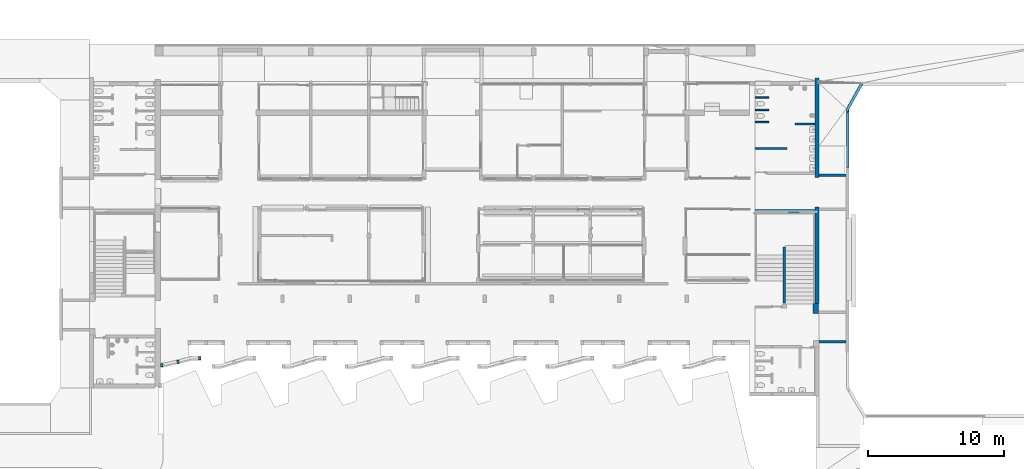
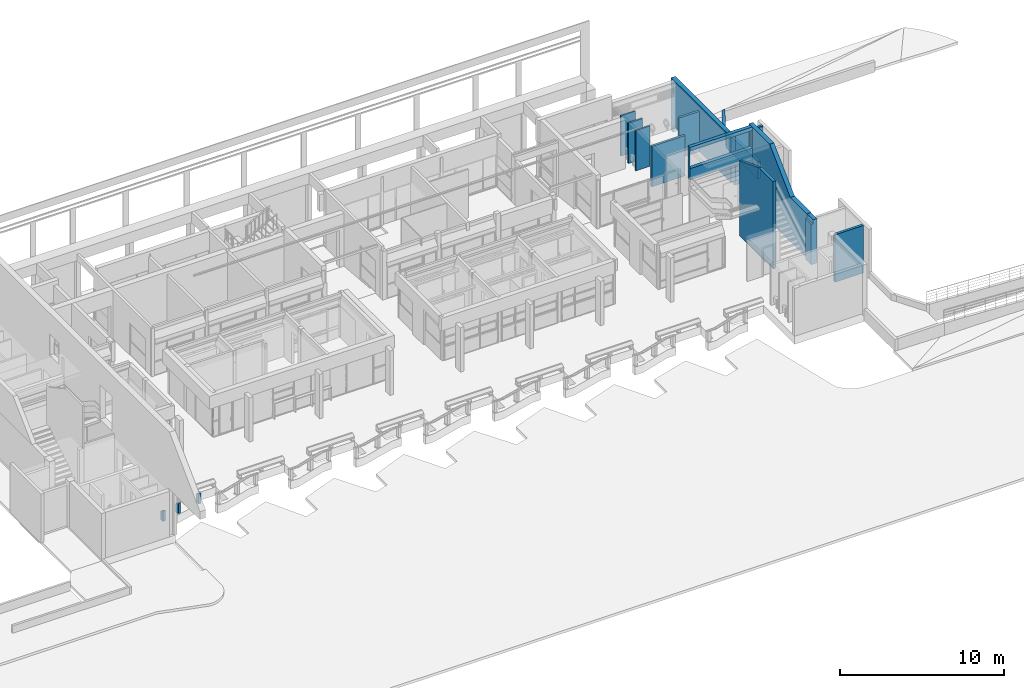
# One storey, part 92 of 117: 17 walls, 6 openings.
"""IFC4 building model written with IfcOpenShell, lengths in metres."""

from ifc_helpers import new_model, entity, si_unit, converted_unit, derived_unit, direction, frame, origin, place, context, subcontext, project, spatial, indexed_curve, outline, extrude, polygons, material, type_object, element, save


model = new_model("IFC4")

# Units and contexts
model_context = context("Model", 3, precision=1e-05, world=origin(), true_north=direction((6.123031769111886e-17, 1.0)))
body_context = subcontext(model_context, "Body", "Model", "MODEL_VIEW")
ifc_project = project(units=[si_unit("LENGTHUNIT", "METRE"), si_unit("AREAUNIT", "SQUARE_METRE"), si_unit("VOLUMEUNIT", "CUBIC_METRE"), converted_unit("PLANEANGLEUNIT", "DEGREE", entity("IfcRatioMeasure", 0.017453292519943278), si_unit("PLANEANGLEUNIT", "RADIAN"), dimensions=[0, 0, 0, 0, 0, 0, 0]), si_unit("MASSUNIT", "GRAM", prefix="KILO"), derived_unit("MASSDENSITYUNIT", [(si_unit("MASSUNIT", "GRAM", prefix="KILO"), 1), (si_unit("LENGTHUNIT", "METRE"), -3)]), derived_unit("MOMENTOFINERTIAUNIT", [(si_unit("LENGTHUNIT", "METRE"), 4)]), si_unit("TIMEUNIT", "SECOND"), si_unit("FREQUENCYUNIT", "HERTZ"), si_unit("THERMODYNAMICTEMPERATUREUNIT", "DEGREE_CELSIUS"), derived_unit("THERMALTRANSMITTANCEUNIT", [(si_unit("MASSUNIT", "GRAM", prefix="KILO"), 1), (si_unit("THERMODYNAMICTEMPERATUREUNIT", "KELVIN"), -1), (si_unit("TIMEUNIT", "SECOND"), -3)]), derived_unit("VOLUMETRICFLOWRATEUNIT", [(si_unit("LENGTHUNIT", "METRE"), 3), (si_unit("TIMEUNIT", "SECOND"), -1)]), derived_unit("MASSFLOWRATEUNIT", [(si_unit("MASSUNIT", "GRAM", prefix="KILO"), 1), (si_unit("TIMEUNIT", "SECOND"), -1)]), derived_unit("ROTATIONALFREQUENCYUNIT", [(si_unit("TIMEUNIT", "SECOND"), -1)]), si_unit("ELECTRICCURRENTUNIT", "AMPERE"), si_unit("ELECTRICVOLTAGEUNIT", "VOLT"), si_unit("POWERUNIT", "WATT"), si_unit("FORCEUNIT", "NEWTON", prefix="KILO"), si_unit("ILLUMINANCEUNIT", "LUX"), si_unit("LUMINOUSFLUXUNIT", "LUMEN"), si_unit("LUMINOUSINTENSITYUNIT", "CANDELA"), derived_unit("USERDEFINED", [(si_unit("MASSUNIT", "GRAM", prefix="KILO"), -1), (si_unit("LENGTHUNIT", "METRE"), -2), (si_unit("TIMEUNIT", "SECOND"), 3), (si_unit("LUMINOUSFLUXUNIT", "LUMEN"), 1)]), derived_unit("SOUNDPOWERUNIT", [(si_unit("MASSUNIT", "GRAM", prefix="KILO"), 1), (si_unit("LENGTHUNIT", "METRE"), 2), (si_unit("TIMEUNIT", "SECOND"), -3)]), derived_unit("SOUNDPRESSUREUNIT", [(si_unit("MASSUNIT", "GRAM", prefix="KILO"), 1), (si_unit("LENGTHUNIT", "METRE"), -1), (si_unit("TIMEUNIT", "SECOND"), -2)]), derived_unit("LINEARVELOCITYUNIT", [(si_unit("LENGTHUNIT", "METRE"), 1), (si_unit("TIMEUNIT", "SECOND"), -1)]), si_unit("PRESSUREUNIT", "PASCAL"), derived_unit("USERDEFINED", [(si_unit("LENGTHUNIT", "METRE"), -2), (si_unit("MASSUNIT", "GRAM", prefix="KILO"), 1), (si_unit("TIMEUNIT", "SECOND"), -2)]), derived_unit("LINEARFORCEUNIT", [(si_unit("MASSUNIT", "GRAM", prefix="KILO"), 1), (si_unit("LENGTHUNIT", "METRE"), 1), (si_unit("TIMEUNIT", "SECOND"), -2), (si_unit("LENGTHUNIT", "METRE"), -1)]), derived_unit("PLANARFORCEUNIT", [(si_unit("MASSUNIT", "GRAM", prefix="KILO"), 1), (si_unit("LENGTHUNIT", "METRE"), 1), (si_unit("TIMEUNIT", "SECOND"), -2), (si_unit("LENGTHUNIT", "METRE"), -2)])], contexts=[model_context])

# Site, building, storey
site_placement = place(None, origin())
site = spatial("IfcSite", under=ifc_project, at=site_placement, Name="Superficie", CompositionType="ELEMENT")
building_placement = place(site_placement, origin())
building = spatial("IfcBuilding", under=site, at=building_placement, CompositionType="ELEMENT")
storey_placement = place(building_placement, origin())
storey = spatial("IfcBuildingStorey", under=building, at=storey_placement, Name="Nivel 0", CompositionType="ELEMENT", Elevation=0.0)

# Walls
ifc_material = material(Name="Muro por defecto", Category="Varios")
wall_type_1 = type_object("IfcWallType", Name="Muro básico:Por defecto - 20 cm", PredefinedType="STANDARD")
wall_1_placement = place(storey_placement, frame((23.121799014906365, -3.3641708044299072, 0.0), z_axis=(0.0, 0.0, 1.0), x_axis=(0.0, 1.0, 0.0)))
element("IfcWall", 1, at=wall_1_placement, inside=storey, type_object=wall_type_1, material=ifc_material, Name="Muro básico:Por defecto - 20 cm", ObjectType="Muro básico:Por defecto - 20 cm", PredefinedType="NOTDEFINED", context=body_context, shape_type="Tessellation", body=[
    polygons([(5.414335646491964e-16, -0.10000000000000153, 0.0), (4.100000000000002, -0.10000000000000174, 0.0), (4.100000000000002, -0.0999999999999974, 5.558264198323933), (1.699999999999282, -0.10000000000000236, 6.478694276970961), (1.699999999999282, -0.10000000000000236, 6.499999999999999), (5.414335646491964e-16, -0.10000000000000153, 6.499999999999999), (0.0, -0.10000000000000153, 3.3), (5.414335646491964e-16, 0.10000000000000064, 0.0), (5.414335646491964e-16, 0.10000000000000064, 6.499999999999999), (1.6999999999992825, 0.09999999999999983, 6.499999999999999), (1.699999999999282, 0.09999999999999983, 6.478694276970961), (4.100000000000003, 0.10000000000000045, 5.558264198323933), (4.100000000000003, 0.10000000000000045, 0.0)], [[[1, 2, 3, 4, 5, 6, 7]], [[8, 9, 10, 11, 12, 13]], [[2, 1, 8, 13]], [[3, 2, 13, 12]], [[10, 5, 4, 11]], [[4, 3, 12, 11]], [[6, 5, 10, 9]], [[1, 7, 6, 9, 8]]], closed=True),
])
wall_2_placement = place(storey_placement, frame((28.852989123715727, 12.78514521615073, -0.9889122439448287), z_axis=(0.0, 0.0, 1.0), x_axis=(-0.48480962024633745, -0.8746197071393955, 0.0)))
element("IfcWall", 2, at=wall_2_placement, inside=storey, type_object=wall_type_1, material=ifc_material, Name="Muro básico:Por defecto - 20 cm", ObjectType="Muro básico:Por defecto - 20 cm", PredefinedType="NOTDEFINED", context=body_context, shape_type="Tessellation", body=[
    polygons([(0.11086181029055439, -0.1, 0.0), (2.225055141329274, -0.10000000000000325, 0.0), (2.225055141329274, -0.10000000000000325, 1.120903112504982), (0.11086181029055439, -0.1, 1.0470738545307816), (2.1657342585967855e-15, 0.09999999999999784, 0.0), (2.1657342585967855e-15, 0.09999999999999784, 0.2683875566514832), (2.1657342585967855e-15, 0.09999999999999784, 1.043202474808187), (2.5858646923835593, 0.09999999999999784, 1.133502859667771), (2.5858646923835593, 0.09999999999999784, 0.0)], [[[1, 2, 3, 4]], [[5, 6, 7, 8, 9]], [[3, 2, 9, 8]], [[1, 4, 7, 6, 5]], [[2, 1, 5, 9]], [[4, 3, 8, 7]]], closed=True),
])
wall_3_placement = place(storey_placement, frame((27.78679901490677, 6.580829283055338, -0.9978519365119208), z_axis=(0.0, 0.0, 1.0), x_axis=(0.0, 1.0, 0.0)))
element("IfcWall", 3, at=wall_3_placement, inside=storey, type_object=wall_type_1, material=ifc_material, Name="Muro básico:Por defecto - 20 cm", ObjectType="Muro básico:Por defecto - 20 cm", PredefinedType="NOTDEFINED", context=body_context, shape_type="Tessellation", body=[
    polygons([(0.0, -0.10000000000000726, 0.0), (4.2549963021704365, -0.10000000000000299, 0.0), (4.2549963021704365, -0.10000000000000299, 1.1347539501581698), (1.6, -0.10000000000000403, 1.3204093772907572), (0.0, -0.10000000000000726, 1.3204093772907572), (0.0, 0.09999999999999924, 0.0), (0.0, 0.09999999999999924, 1.3204093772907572), (1.6, 0.09999999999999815, 1.3204093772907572), (3.894186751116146, 0.09999999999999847, 1.1599842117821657), (3.894186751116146, 0.09999999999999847, 1.1424425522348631), (3.894186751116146, 0.09999999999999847, 0.008939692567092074), (3.894186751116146, 0.09999999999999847, 0.0)], [[[1, 2, 3, 4, 5]], [[6, 7, 8, 9, 10, 11, 12]], [[3, 2, 12, 11, 10, 9]], [[2, 1, 6, 12]], [[5, 4, 8, 7]], [[1, 5, 7, 6]], [[4, 3, 9, 8]]], closed=True),
])
wall_type_2 = type_object("IfcWallType", Name="Muro básico:Por defecto - 40 cm 2", PredefinedType="STANDARD")
wall_4_placement = place(storey_placement, frame((25.456799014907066, -4.144170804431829, 0.0), z_axis=(0.0, 0.0, 1.0), x_axis=(0.0, 1.0, 0.0)))
element("IfcWall", 4, at=wall_4_placement, inside=storey, type_object=wall_type_2, material=ifc_material, Name="Muro básico:Por defecto - 40 cm 2", ObjectType="Muro básico:Por defecto - 40 cm 2", PredefinedType="NOTDEFINED", context=body_context, shape_type="Tessellation", body=[
    polygons([(-5.414335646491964e-16, -0.20000000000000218, 0.0), (0.7249999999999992, -0.20000000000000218, 0.0), (0.7249999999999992, -0.20000000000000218, 3.3), (-5.414335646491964e-16, -0.20000000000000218, 3.3), (-5.414335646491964e-16, 0.19999999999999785, 0.0), (-5.414335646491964e-16, 0.19999999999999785, 2.9999999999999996), (0.7249999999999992, 0.19999999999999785, 2.9999999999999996), (0.7249999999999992, 0.19999999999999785, 0.0), (0.7249999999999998, 0.07999999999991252, 0.0), (0.7249999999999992, 0.07999999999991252, 2.9999999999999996), (0.7249999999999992, 0.07999999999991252, 3.3), (-5.414335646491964e-16, 0.07999999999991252, 3.3), (-5.414335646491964e-16, 0.07999999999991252, 2.9999999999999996), (0.4000000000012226, 0.07999999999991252, 2.9999999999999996)], [[[1, 2, 3, 4]], [[5, 6, 7, 8]], [[2, 1, 5, 8, 9]], [[3, 2, 9, 8, 7, 10, 11]], [[1, 4, 12, 13, 6, 5]], [[4, 3, 11, 12]], [[12, 11, 10, 14, 13]], [[10, 7, 6, 13, 14]]], closed=True),
])

# Wall, opening
wall_type_3 = type_object("IfcWallType", Name="Muro básico:Por defecto - 25 cm 2", PredefinedType="STANDARD")
wall_5_placement = place(storey_placement, frame((20.98679901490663, 3.3708292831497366, 3.3033896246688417)))
wall_5 = element("IfcWall", 5, at=wall_5_placement, inside=storey, type_object=wall_type_3, material=ifc_material, Name="Muro básico:Por defecto - 25 cm 2", ObjectType="Muro básico:Por defecto - 25 cm 2", PredefinedType="NOTDEFINED", context=body_context, shape_type="Tessellation", body=[
    polygons([(2.4716976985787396e-15, -0.12500000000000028, 0.0), (4.3900000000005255, -0.12500000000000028, 0.0), (4.3900000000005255, -0.12500000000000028, 2.4266103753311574), (2.4716976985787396e-15, -0.12500000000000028, 2.4266103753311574), (4.381537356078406, -0.12500000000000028, 0.8566103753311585), (0.008650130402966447, -0.12500000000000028, 0.8566103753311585), (0.008650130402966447, -0.12500000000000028, 2.167324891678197), (4.381537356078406, -0.12500000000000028, 2.167324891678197), (4.390000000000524, 0.12500000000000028, 0.0), (1.6612185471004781e-15, 0.12499999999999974, 0.0), (1.6612185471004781e-15, 0.12499999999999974, 2.4266103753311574), (4.390000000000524, 0.12500000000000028, 2.4266103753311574), (0.008650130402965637, 0.12499999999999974, 0.8566103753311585), (4.381537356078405, 0.12500000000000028, 0.8566103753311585), (4.381537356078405, 0.12500000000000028, 2.167324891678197), (0.008650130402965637, 0.12499999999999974, 2.167324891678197)], [[[1, 2, 3, 4], [5, 6, 7, 8]], [[9, 10, 11, 12], [13, 14, 15, 16]], [[2, 1, 10, 9]], [[4, 3, 12, 11]], [[1, 4, 11, 10]], [[3, 2, 9, 12]], [[5, 14, 13, 6]], [[16, 7, 6, 13]], [[8, 15, 14, 5]], [[7, 16, 15, 8]]], closed=True),
])
opening_1_placement = place(wall_5_placement, origin())
element("IfcOpeningElement", 6, at=opening_1_placement, cuts=wall_5, Name="Muro básico:Por defecto - 25 cm 2", PredefinedType="OPENING", context=body_context, shape_type="SweptSolid", body=[
    extrude(outline(indexed_curve([(-0.6553572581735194, -2.1864436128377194), (0.6553572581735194, -2.1864436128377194), (0.6553572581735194, 2.1864436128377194), (-0.6553572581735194, 2.1864436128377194), (-0.6553572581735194, -2.1864436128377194)], self_intersect=False)), frame((2.195093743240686, -0.12499999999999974, 1.5119676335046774), z_axis=(0.0, 1.0, 0.0), x_axis=(0.0, 0.0, -1.0)), (0.0, 0.0, 1.0), 0.24999999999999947),
])

wall_type_4 = type_object("IfcWallType", Name="Muro básico:Por defecto - 30 cm", PredefinedType="STANDARD")
wall_6_placement = place(storey_placement, frame((25.526799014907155, -3.4191708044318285, 0.0), z_axis=(0.0, 0.0, 1.0), x_axis=(0.0, 1.0, 0.0)))
wall_6 = element("IfcWall", 7, at=wall_6_placement, inside=storey, type_object=wall_type_4, material=ifc_material, Name="Muro básico:Por defecto - 30 cm", ObjectType="Muro básico:Por defecto - 30 cm", PredefinedType="NOTDEFINED", context=body_context, shape_type="Tessellation", body=[
    polygons([(-5.414335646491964e-16, -0.15000000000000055, 0.0), (7.075000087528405, -0.15000000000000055, 0.0), (7.075000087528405, -0.15000000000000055, 5.729999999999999), (4.545000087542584, -0.15000000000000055, 5.729999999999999), (2.0295032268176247, -0.15000000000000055, 3.299999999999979), (-5.414335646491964e-16, -0.15000000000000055, 3.299999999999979), (-5.414335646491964e-16, 0.15000000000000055, 0.0), (0.0, 0.15000000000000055, 2.9999999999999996), (-5.414335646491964e-16, 0.15000000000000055, 3.299999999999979), (2.0295032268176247, 0.15000000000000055, 3.299999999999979), (4.545000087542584, 0.15000000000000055, 5.729999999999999), (6.66500008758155, 0.15000000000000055, 5.729999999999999), (6.915000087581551, 0.15000000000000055, 5.729999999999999), (7.075000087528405, 0.15000000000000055, 5.729999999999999), (7.075000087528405, 0.15000000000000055, 0.0), (6.780000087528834, 0.15000000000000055, 0.0), (6.660000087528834, 0.15000000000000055, 0.0), (0.0, -0.12999999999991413, 0.0), (0.0, -0.12999999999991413, 3.2999999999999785)], [[[1, 2, 3, 4, 5, 6]], [[7, 8, 9, 10, 11, 12, 13, 14, 15, 16, 17]], [[2, 1, 18, 7, 17, 16, 15]], [[3, 2, 15, 14]], [[4, 3, 14, 13, 12, 11]], [[1, 6, 19, 9, 8, 7, 18]], [[5, 4, 11, 10]], [[6, 5, 10, 9, 19]]], closed=True),
])
opening_2_placement = place(wall_6_placement, origin())
element("IfcOpeningElement", 8, at=opening_2_placement, cuts=wall_6, Name="Muro básico:Por defecto - 30 cm", PredefinedType="OPENING", context=body_context, shape_type="SweptSolid", body=[
    extrude(outline(indexed_curve([(-2.901374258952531, -1.2150000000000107), (1.643625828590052, -1.2150000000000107), (1.643625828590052, 1.2150000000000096), (-0.3858773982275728, 1.2150000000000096), (-2.901374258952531, -1.2150000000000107)], self_intersect=False)), frame((1.643625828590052, 0.15000000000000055, 4.514999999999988), z_axis=(0.0, -1.0, 0.0), x_axis=(-1.0, 0.0, 0.0)), (0.0, 0.0, 1.0), 0.30000000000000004),
])

wall_7_placement = place(storey_placement, frame((25.52679901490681, 13.14173978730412, -0.5199999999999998), z_axis=(0.0, 0.0, 1.0), x_axis=(0.0, -1.0, 0.0)))
wall_7 = element("IfcWall", 9, at=wall_7_placement, inside=storey, type_object=wall_type_4, material=ifc_material, Name="Muro básico:Por defecto - 30 cm", ObjectType="Muro básico:Por defecto - 30 cm", PredefinedType="NOTDEFINED", context=body_context, shape_type="Tessellation", body=[
    polygons([(7.3109105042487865, -0.1499999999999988, 0.5199999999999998), (7.3109105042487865, -0.1499999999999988, 3.9199999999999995), (7.074999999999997, -0.14999999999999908, 3.9199999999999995), (6.924999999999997, -0.14999999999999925, 3.9199999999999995), (0.5571913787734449, -0.14999999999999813, 3.9199999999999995), (0.2571913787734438, -0.1499999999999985, 3.9199999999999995), (0.0, -0.1499999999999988, 3.9199999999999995), (0.0, -0.1499999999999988, 0.004012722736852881), (0.19353106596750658, -0.14999999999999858, 0.0023306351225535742), (0.2571913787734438, -0.14999999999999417, 0.0023306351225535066), (0.2571913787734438, -0.1499999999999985, 0.5199999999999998), (0.5571913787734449, -0.14999999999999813, 0.5199999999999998), (3.324999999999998, -0.1499999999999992, 0.5199999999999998), (3.4749999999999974, -0.14999999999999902, 0.5199999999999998), (6.924999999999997, -0.14999999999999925, 0.5199999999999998), (7.074999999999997, -0.14999999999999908, 0.5199999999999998), (0.557191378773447, -0.14999999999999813, 3.529600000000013), (0.557191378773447, -0.14999999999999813, 2.919999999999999), (0.25719137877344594, -0.1499999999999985, 2.919999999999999), (0.25719137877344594, -0.1499999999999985, 3.529600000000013), (7.3109105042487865, 0.15000000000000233, 3.9199999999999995), (7.3109105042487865, 0.15000000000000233, 0.5199999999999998), (0.2571913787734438, 0.15000000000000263, 0.5199999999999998), (0.2571913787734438, 0.15000000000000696, -2.0303758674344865e-16), (0.0, 0.15000000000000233, 0.0022353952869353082), (0.0, 0.15000000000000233, 3.9199999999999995), (7.060910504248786, 0.15000000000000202, 3.9199999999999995), (7.240910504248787, 0.15000000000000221, 3.9199999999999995), (0.557191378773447, -0.14499999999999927, 3.529600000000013), (0.557191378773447, -0.14499999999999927, 2.919999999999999), (0.25719137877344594, -0.14499999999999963, 2.919999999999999), (0.25719137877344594, -0.14499999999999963, 3.529600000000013)], [[[1, 2, 3, 4, 5, 6, 7, 8, 9, 10, 11, 12, 13, 14, 15, 16], [17, 18, 19, 20]], [[21, 22, 23, 24, 25, 26, 27, 28]], [[2, 1, 22, 21]], [[7, 6, 5, 4, 3, 2, 21, 28, 27, 26]], [[8, 7, 26, 25]], [[29, 30, 18, 17]], [[31, 32, 20, 19]], [[30, 31, 19, 18]], [[30, 29, 32, 31]], [[32, 29, 17, 20]], [[22, 1, 16, 15, 14, 13, 12, 11, 23]], [[23, 11, 10, 24]], [[24, 10, 9]], [[8, 25, 24, 9]]], closed=True),
])
opening_3_placement = place(wall_7_placement, origin())
element("IfcOpeningElement", 10, at=opening_3_placement, cuts=wall_7, Name="Muro básico:Por defecto - 30 cm", PredefinedType="OPENING", context=body_context, shape_type="SweptSolid", body=[
    extrude(outline(indexed_curve([(-0.15000000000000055, -0.30480000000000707), (0.15000000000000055, -0.30480000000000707), (0.15000000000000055, 0.3048000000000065), (-0.15000000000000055, 0.3048000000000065), (-0.15000000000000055, -0.30480000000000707)], self_intersect=False)), frame((0.4071913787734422, -1.294999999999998, 3.2248000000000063), z_axis=(0.0, 1.0, 0.0), x_axis=(-1.0, 0.0, 0.0)), (0.0, 0.0, 1.0), 1.1499999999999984),
])

# Walls
wall_type_5 = type_object("IfcWallType", Name="Muro básico:Por defecto - 18 cm 2", PredefinedType="STANDARD")
wall_8_placement = place(storey_placement, frame((27.67679901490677, 5.990829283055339, -0.33000000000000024), z_axis=(0.0, 0.0, 1.0), x_axis=(-1.0, 0.0, 0.0)))
element("IfcWall", 11, at=wall_8_placement, inside=storey, type_object=wall_type_5, material=ifc_material, Name="Muro básico:Por defecto - 18 cm 2", ObjectType="Muro básico:Por defecto - 18 cm 2", PredefinedType="NOTDEFINED", context=body_context, shape_type="Tessellation", body=[
    polygons([(1.903152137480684e-15, -0.09000000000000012, 0.33000000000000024), (0.10999999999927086, -0.0900000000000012, 0.33000000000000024), (0.10999999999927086, -0.09000000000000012, 2.707167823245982e-16), (1.9999999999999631, -0.09000000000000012, 2.707167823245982e-16), (1.9999999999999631, -0.09000000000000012, 3.73), (1.903152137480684e-15, -0.09000000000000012, 3.73), (2.4879003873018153e-15, 0.09000000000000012, 0.33000000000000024), (2.4879003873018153e-15, 0.09000000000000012, 3.73), (1.9999999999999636, 0.09000000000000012, 3.73), (1.9999999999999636, 0.09000000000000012, 0.0), (0.10999999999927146, 0.09000000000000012, 2.707167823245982e-16), (0.10999999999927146, 0.09000000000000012, 0.33000000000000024)], [[[1, 2, 3, 4, 5, 6]], [[7, 8, 9, 10, 11, 12]], [[6, 5, 9, 8]], [[1, 6, 8, 7]], [[5, 4, 10, 9]], [[2, 1, 7, 12]], [[2, 12, 11, 3]], [[4, 3, 11, 10]]], closed=True),
])
wall_9_placement = place(storey_placement, frame((27.67679901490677, -6.224140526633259, -0.1392296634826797), z_axis=(0.0, 0.0, 1.0), x_axis=(-1.0, 0.0, 0.0)))
element("IfcWall", 12, at=wall_9_placement, inside=storey, type_object=wall_type_5, material=ifc_material, Name="Muro básico:Por defecto - 18 cm 2", ObjectType="Muro básico:Por defecto - 18 cm 2", PredefinedType="NOTDEFINED", context=body_context, shape_type="Tessellation", body=[
    polygons([(2.6378009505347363e-15, -0.09000000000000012, 0.0), (1.9999999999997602, -0.09000000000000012, 6.767919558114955e-17), (1.999999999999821, -0.09000000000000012, 0.000775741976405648), (1.999999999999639, -0.09000000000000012, 3.539229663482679), (2.6378009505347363e-15, -0.09000000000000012, 3.539229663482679), (3.223614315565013e-15, 0.09000000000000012, 5.075939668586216e-17), (3.223614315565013e-15, 0.09000000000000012, 3.539229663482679), (1.9999999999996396, 0.09000000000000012, 3.539229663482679), (1.9999999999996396, 0.09000000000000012, 0.0)], [[[1, 2, 3, 4, 5]], [[6, 7, 8, 9]], [[5, 4, 8, 7]], [[1, 5, 7, 6]], [[4, 3, 2, 9, 8]], [[2, 1, 6, 9]]], closed=True),
])

# Wall, opening
wall_10_placement = place(storey_placement, frame((-19.753200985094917, -7.574170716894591, 0.07000000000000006), z_axis=(0.0, 0.0, 1.0), x_axis=(0.0, 1.0, 0.0)))
wall_10 = element("IfcWall", 13, at=wall_10_placement, inside=storey, type_object=wall_type_5, material=ifc_material, Name="Muro básico:Por defecto - 18 cm 2", ObjectType="Muro básico:Por defecto - 18 cm 2", PredefinedType="NOTDEFINED", context=body_context, shape_type="Tessellation", body=[
    polygons([(1.0828671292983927e-15, -0.08999999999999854, 0.0), (0.27999999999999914, -0.08999999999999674, 0.0), (0.27999999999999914, -0.08999999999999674, 0.6000000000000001), (0.22999999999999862, -0.08999999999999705, 0.6000000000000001), (0.22999999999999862, -0.08999999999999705, 0.6606979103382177), (0.04999999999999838, -0.08999999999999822, 0.7599999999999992), (1.0828671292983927e-15, -0.08999999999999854, 0.7599999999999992), (1.0828671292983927e-15, 0.08999999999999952, 0.0), (1.0828671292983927e-15, 0.08999999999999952, 0.7599999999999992), (0.04999999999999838, 0.08999999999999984, 0.7599999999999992), (0.22999999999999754, 0.09000000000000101, 0.6606979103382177), (0.22999999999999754, 0.09000000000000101, 0.6000000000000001), (0.27999999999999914, 0.09000000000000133, 0.6000000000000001), (0.27999999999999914, 0.09000000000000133, 0.0)], [[[1, 2, 3, 4, 5, 6, 7]], [[8, 9, 10, 11, 12, 13, 14]], [[2, 1, 8, 14]], [[1, 7, 9, 8]], [[3, 2, 14, 13]], [[4, 3, 13, 12]], [[5, 4, 12, 11]], [[6, 5, 11, 10]], [[7, 6, 10, 9]]], closed=True),
])
opening_4_placement = place(wall_10_placement, origin())
element("IfcOpeningElement", 14, at=opening_4_placement, cuts=wall_10, Name="Muro básico:Por defecto - 18 cm 2", PredefinedType="OPENING", context=body_context, shape_type="SweptSolid", body=[
    extrude(outline(indexed_curve([(-0.0368101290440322, -0.012864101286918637), (0.0418297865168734, -0.012864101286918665), (-0.005019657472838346, 0.025728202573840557), (-0.0368101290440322, -0.012864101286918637)], self_intersect=False)), frame((0.2466666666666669, 0.0900000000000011, 0.6202326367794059), z_axis=(0.0, -1.0, 0.0), x_axis=(-0.6358094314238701, 0.0, 0.7718460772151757)), (0.0, 0.0, 1.0), 0.18),
])

wall_11_placement = place(storey_placement, frame((-21.317052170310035, -7.839080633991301, 0.0700000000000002), z_axis=(0.0, 0.0, 1.0), x_axis=(-0.2330147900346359, 0.9724731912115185, 0.0)))
wall_11 = element("IfcWall", 15, at=wall_11_placement, inside=storey, type_object=wall_type_5, material=ifc_material, Name="Muro básico:Por defecto - 18 cm 2", ObjectType="Muro básico:Por defecto - 18 cm 2", PredefinedType="NOTDEFINED", context=body_context, shape_type="Tessellation", body=[
    polygons([(0.0, -0.08999999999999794, 0.0), (0.279999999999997, -0.08999999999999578, 0.0), (0.279999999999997, -0.08999999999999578, 0.6000000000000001), (0.22999999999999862, -0.0899999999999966, 0.6000000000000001), (0.22999999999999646, -0.08999999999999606, 0.6606979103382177), (0.049999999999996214, -0.08999999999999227, 0.7599999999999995), (0.0, -0.08999999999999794, 0.7599999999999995), (0.0, 0.09000000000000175, 0.0), (0.0, 0.09000000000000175, 0.7599999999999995), (0.0499999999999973, 0.09000000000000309, 0.7599999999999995), (0.22999999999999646, 0.09000000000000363, 0.6606979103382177), (0.22999999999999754, 0.09000000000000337, 0.6000000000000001), (0.279999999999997, 0.09000000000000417, 0.6000000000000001), (0.279999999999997, 0.09000000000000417, 0.0)], [[[1, 2, 3, 4, 5, 6, 7]], [[8, 9, 10, 11, 12, 13, 14]], [[2, 1, 8, 14]], [[1, 7, 9, 8]], [[3, 2, 14, 13]], [[4, 3, 13, 12]], [[5, 4, 12, 11]], [[6, 5, 11, 10]], [[7, 6, 10, 9]]], closed=True),
])
opening_5_placement = place(wall_11_placement, origin())
element("IfcOpeningElement", 16, at=opening_5_placement, cuts=wall_11, Name="Muro básico:Por defecto - 18 cm 2", PredefinedType="OPENING", context=body_context, shape_type="SweptSolid", body=[
    extrude(outline(indexed_curve([(-0.03681012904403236, -0.012864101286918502), (0.04182978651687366, -0.012864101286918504), (-0.005019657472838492, 0.025728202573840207), (-0.03681012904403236, -0.012864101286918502)], self_intersect=False)), frame((0.24666666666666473, 0.09000000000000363, 0.6202326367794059), z_axis=(0.0, -1.0, 0.0), x_axis=(-0.6358094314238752, 0.0, 0.7718460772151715)), (0.0, 0.0, 1.0), 0.17999999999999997),
])

wall_12_placement = place(storey_placement, frame((-22.543200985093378, -8.08454108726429, 0.07000000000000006), z_axis=(0.0, 0.0, 1.0), x_axis=(0.0, 1.0, 0.0)))
wall_12 = element("IfcWall", 17, at=wall_12_placement, inside=storey, type_object=wall_type_5, material=ifc_material, Name="Muro básico:Por defecto - 18 cm 2", ObjectType="Muro básico:Por defecto - 18 cm 2", PredefinedType="NOTDEFINED", context=body_context, shape_type="Tessellation", body=[
    polygons([(1.0828671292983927e-15, -0.08999999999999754, 0.0), (0.2799999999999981, -0.08999999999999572, 0.0), (0.2799999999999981, -0.08999999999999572, 0.6000000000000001), (0.22999999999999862, -0.08999999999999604, 0.6000000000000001), (0.22999999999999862, -0.08999999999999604, 0.6606979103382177), (0.04999999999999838, -0.08999999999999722, 0.7599999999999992), (1.0828671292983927e-15, -0.08999999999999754, 0.7599999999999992), (0.0, 0.09000000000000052, 0.0), (0.0, 0.09000000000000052, 0.7599999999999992), (0.0499999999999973, 0.09000000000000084, 0.7599999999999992), (0.22999999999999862, 0.09000000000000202, 0.6606979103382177), (0.22999999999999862, 0.09000000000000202, 0.6000000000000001), (0.27999999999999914, 0.09000000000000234, 0.6000000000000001), (0.27999999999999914, 0.09000000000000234, 0.0)], [[[1, 2, 3, 4, 5, 6, 7]], [[8, 9, 10, 11, 12, 13, 14]], [[2, 1, 8, 14]], [[1, 7, 9, 8]], [[3, 2, 14, 13]], [[4, 3, 13, 12]], [[5, 4, 12, 11]], [[6, 5, 11, 10]], [[7, 6, 10, 9]]], closed=True),
])
opening_6_placement = place(wall_12_placement, origin())
element("IfcOpeningElement", 18, at=opening_6_placement, cuts=wall_12, Name="Muro básico:Por defecto - 18 cm 2", PredefinedType="OPENING", context=body_context, shape_type="SweptSolid", body=[
    extrude(outline(indexed_curve([(-0.036810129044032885, -0.012864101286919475), (0.04182978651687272, -0.0128641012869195), (-0.005019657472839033, 0.025728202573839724), (-0.036810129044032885, -0.012864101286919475)], self_intersect=False)), frame((0.2466666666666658, 0.09000000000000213, 0.6202326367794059), z_axis=(0.0, -1.0, 0.0), x_axis=(-0.6358094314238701, 0.0, 0.7718460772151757)), (0.0, 0.0, 1.0), 0.18),
])

# Walls
wall_type_6 = type_object("IfcWallType", Name="Muro básico:Por defecto - 10 cm", PredefinedType="STANDARD")
wall_13_placement = place(storey_placement, frame((21.996799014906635, 11.691739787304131, 0.0), z_axis=(0.0, 0.0, 1.0), x_axis=(-1.0, 0.0, 0.0)))
element("IfcWall", 19, at=wall_13_placement, inside=storey, type_object=wall_type_6, material=ifc_material, Name="Muro básico:Por defecto - 10 cm", ObjectType="Muro básico:Por defecto - 10 cm", PredefinedType="NOTDEFINED", context=body_context, shape_type="Tessellation", body=[
    polygons([(1.3810501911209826e-15, -0.050000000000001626, 0.0), (1.0099999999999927, -0.050000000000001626, 0.0), (1.0099999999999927, -0.050000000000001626, 2.9999999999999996), (1.3810501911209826e-15, -0.050000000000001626, 2.9999999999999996), (1.0372828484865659e-15, 0.04999999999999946, 0.0), (1.0372828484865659e-15, 0.04999999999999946, 2.9999999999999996), (1.01000000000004, 0.04999999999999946, 2.9999999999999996), (1.0099999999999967, 0.04999999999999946, 0.0)], [[[1, 2, 3, 4]], [[5, 6, 7, 8]], [[2, 1, 5, 8]], [[1, 4, 6, 5]], [[4, 3, 7, 6]], [[3, 2, 8, 7]]], closed=True),
])
wall_14_placement = place(storey_placement, frame((21.996799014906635, 10.791739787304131, 0.0), z_axis=(0.0, 0.0, 1.0), x_axis=(-1.0, 0.0, 0.0)))
element("IfcWall", 20, at=wall_14_placement, inside=storey, type_object=wall_type_6, material=ifc_material, Name="Muro básico:Por defecto - 10 cm", ObjectType="Muro básico:Por defecto - 10 cm", PredefinedType="NOTDEFINED", context=body_context, shape_type="Tessellation", body=[
    polygons([(-1.712855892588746e-15, -0.050000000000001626, 0.0), (1.0099999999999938, -0.050000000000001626, 0.0), (1.0099999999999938, -0.050000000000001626, 2.9999999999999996), (-1.712855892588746e-15, -0.050000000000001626, 2.9999999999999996), (-2.056623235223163e-15, 0.04999999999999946, 0.0), (-2.056623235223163e-15, 0.04999999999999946, 2.9999999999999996), (1.0100000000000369, 0.04999999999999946, 2.9999999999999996), (1.0099999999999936, 0.04999999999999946, 0.0)], [[[1, 2, 3, 4]], [[5, 6, 7, 8]], [[2, 1, 5, 8]], [[1, 4, 6, 5]], [[4, 3, 7, 6]], [[3, 2, 8, 7]]], closed=True),
])
wall_15_placement = place(storey_placement, frame((21.996799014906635, 9.891739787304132, 0.0), z_axis=(0.0, 0.0, 1.0), x_axis=(-1.0, 0.0, 0.0)))
element("IfcWall", 21, at=wall_15_placement, inside=storey, type_object=wall_type_6, material=ifc_material, Name="Muro básico:Por defecto - 10 cm", ObjectType="Muro básico:Por defecto - 10 cm", PredefinedType="NOTDEFINED", context=body_context, shape_type="Tessellation", body=[
    polygons([(-4.752934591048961e-16, -0.050000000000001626, 0.0), (1.0099999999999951, -0.050000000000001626, 0.0), (1.0099999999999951, -0.050000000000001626, 2.9999999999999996), (-4.752934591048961e-16, -0.050000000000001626, 2.9999999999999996), (-8.19060801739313e-16, 0.04999999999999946, 0.0), (-8.19060801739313e-16, 0.04999999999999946, 2.9999999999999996), (1.0100000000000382, 0.04999999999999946, 2.9999999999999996), (1.009999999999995, 0.04999999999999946, 0.0)], [[[1, 2, 3, 4]], [[5, 6, 7, 8]], [[2, 1, 5, 8]], [[1, 4, 6, 5]], [[4, 3, 7, 6]], [[3, 2, 8, 7]]], closed=True),
])
wall_type_7 = type_object("IfcWallType", Name="Muro básico:Por defecto - 15 cm 2", PredefinedType="STANDARD")
wall_16_placement = place(storey_placement, frame((20.98679901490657, 7.956739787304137, 0.0)))
element("IfcWall", 22, at=wall_16_placement, inside=storey, type_object=wall_type_7, material=ifc_material, Name="Muro básico:Por defecto - 15 cm 2", ObjectType="Muro básico:Por defecto - 15 cm 2", PredefinedType="NOTDEFINED", context=body_context, shape_type="Tessellation", body=[
    polygons([(6.359552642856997e-14, -0.07499999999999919, 0.0), (2.3500000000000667, -0.07499999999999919, 0.0), (2.3500000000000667, -0.07499999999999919, 2.9999999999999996), (2.0280841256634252e-14, -0.07499999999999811, 3.0000000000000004), (6.315716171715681e-14, 0.07499999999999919, 0.0), (6.315716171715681e-14, 0.07499999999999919, 2.9999999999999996), (2.350000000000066, 0.07500000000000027, 2.9999999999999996), (2.350000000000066, 0.07500000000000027, 0.0)], [[[1, 2, 3, 4]], [[5, 6, 7, 8]], [[2, 1, 5, 8]], [[3, 2, 8, 7]], [[4, 3, 7, 6]], [[1, 4, 6, 5]]], closed=True),
])
wall_17_placement = place(storey_placement, frame((23.92679901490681, 9.741739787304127, 0.0)))
element("IfcWall", 23, at=wall_17_placement, inside=storey, type_object=wall_type_7, material=ifc_material, Name="Muro básico:Por defecto - 15 cm 2", ObjectType="Muro básico:Por defecto - 15 cm 2", PredefinedType="NOTDEFINED", context=body_context, shape_type="Tessellation", body=[
    polygons([(1.4436044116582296e-15, -0.07500000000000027, 0.0), (1.4500000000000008, -0.07500000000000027, 0.0), (1.4500000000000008, -0.07500000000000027, 2.9999999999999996), (1.4436044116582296e-15, -0.07500000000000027, 2.9999999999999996), (9.955214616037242e-16, 0.07499999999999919, 0.0), (9.955214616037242e-16, 0.07499999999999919, 2.9999999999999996), (1.450000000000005, 0.07499999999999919, 2.9999999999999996), (1.4500000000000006, 0.07499999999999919, 0.0)], [[[1, 2, 3, 4]], [[5, 6, 7, 8]], [[2, 1, 5, 8]], [[1, 4, 6, 5]], [[3, 2, 8, 7]], [[4, 3, 7, 6]]], closed=True),
])

save(model, "model.ifc")
